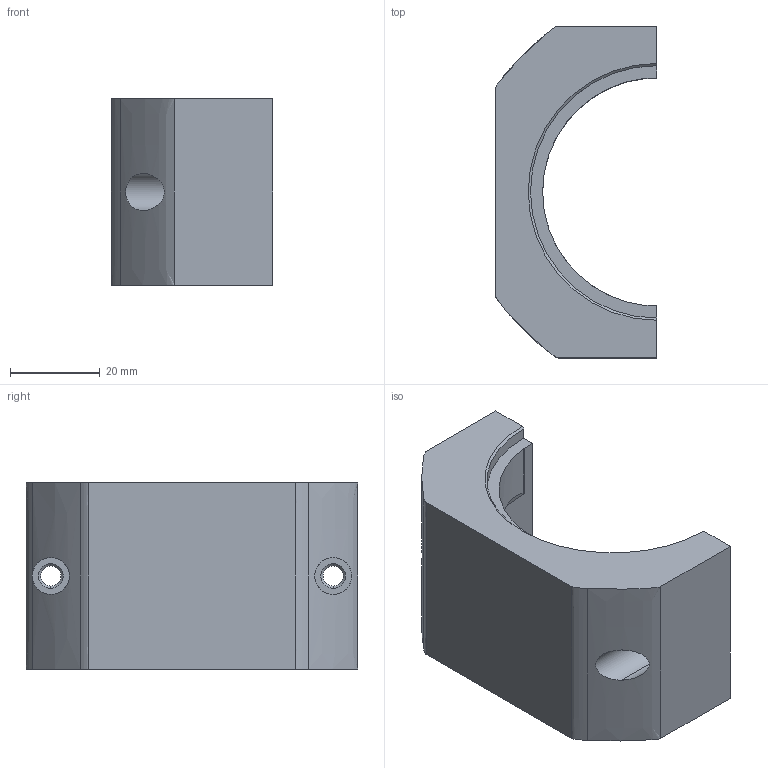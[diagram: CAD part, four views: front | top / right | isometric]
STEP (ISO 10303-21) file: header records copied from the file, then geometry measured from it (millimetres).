
FILE_DESCRIPTION((''),'2;1');
FILE_NAME('KD-C-503X_CLAMP_FLAT_1','2025-07-12T13:35:23',('Administrator'),(''),'CREO PARAMETRIC BY PTC INC, 2022073','CREO PARAMETRIC BY PTC INC, 2022073','');
FILE_SCHEMA(('CONFIG_CONTROL_DESIGN'));
Length unit declared in the file: millimetre
Products named in the file (1): KD-C-503X_CLAMP_FLAT_1
Bounding box: 36 x 74 x 41.5 mm (x, y, z)
Volume: 50818.2 mm3; surface area: 14755.7 mm2
Topology: 1 solids, 1 shells, 64 faces, 179 edges, 115 vertices
Faces by surface type: cylinder 22, plane 14, bspline 8, cone 7, extrusion 5, sphere 4, torus 4
Entity records: 2489 total; most frequent: CARTESIAN_POINT 876, ORIENTED_EDGE 350, DIRECTION 302, EDGE_CURVE 175, AXIS2_PLACEMENT_3D 117, VERTEX_POINT 115, EDGE_LOOP 70, VECTOR 68
